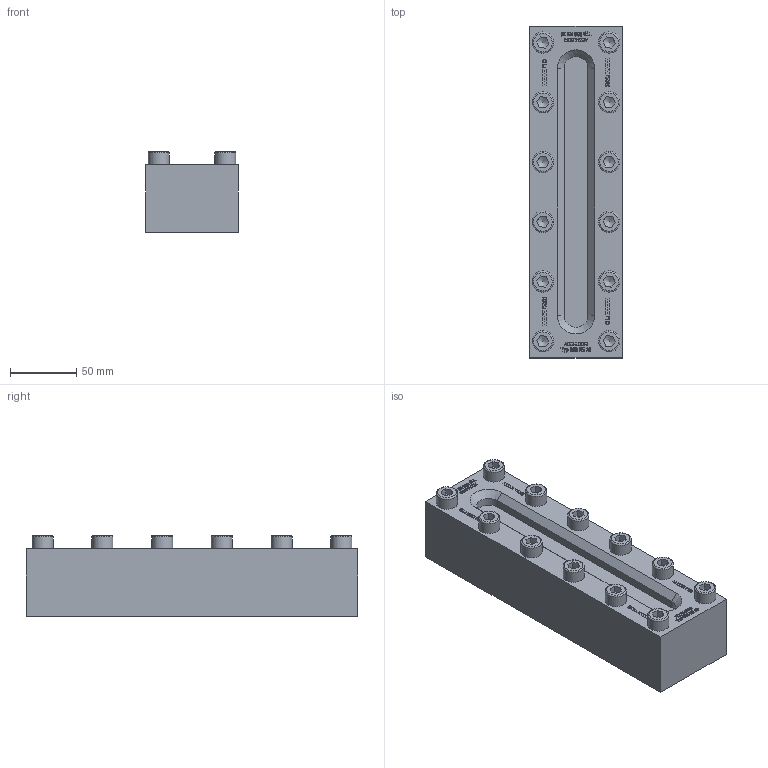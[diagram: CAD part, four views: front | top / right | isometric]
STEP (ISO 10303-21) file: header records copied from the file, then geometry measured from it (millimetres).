
FILE_DESCRIPTION(/* description */ (''),/* implementation_level */ '2;1');
FILE_NAME(/* name */ 'W:\Konstruktion_ACI\330\_Zeichnungen\STEP\ACI-330-250-16.stp',/* time_stamp */ '2022-03-01T17:10:18+01:00',/* author */ ('koslowksi'),/* organization */ (''),/* preprocessor_version */ 'ST-DEVELOPER v16.1',/* originating_system */ 'Autodesk Inventor 2016',/* authorisation */ '');
FILE_SCHEMA (('AUTOMOTIVE_DESIGN { 1 0 10303 214 3 1 1 }'));
Length unit declared in the file: centimetre
Products named in the file (1): ACI-330-250-16.stp
Bounding box: 70 x 250 x 60.9 mm (x, y, z)
Volume: 813075.1 mm3; surface area: 85194.8 mm2
Topology: 1 solids, 1 shells, 1246 faces, 3374 edges, 2244 vertices
Faces by surface type: plane 886, bspline 318, cylinder 16, cone 14, torus 12
Full cylindrical faces by diameter (mm): 16 x12
Entity records: 41078 total; most frequent: CARTESIAN_POINT 11059, ORIENTED_EDGE 6628, DIRECTION 4510, EDGE_CURVE 3314, LINE 2560, VECTOR 2560, VERTEX_POINT 2220, EDGE_LOOP 1396
